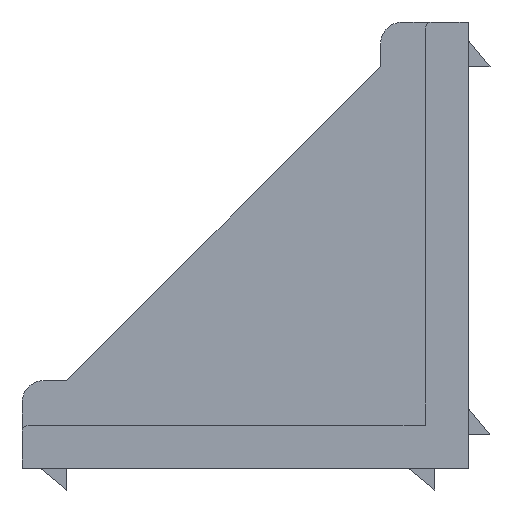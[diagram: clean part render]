
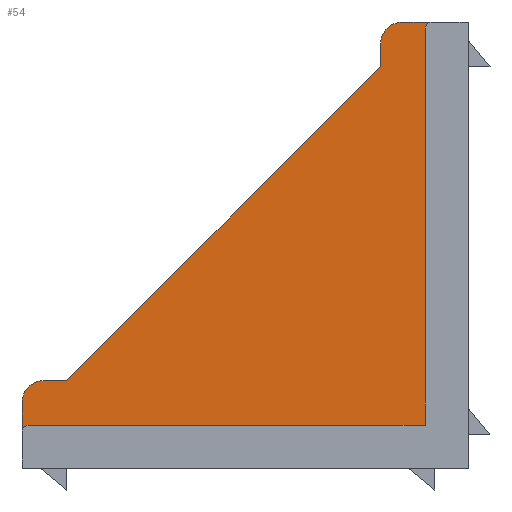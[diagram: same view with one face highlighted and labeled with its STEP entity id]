
A CAD part, left-side view. The second image highlights one B-rep face of the part: STEP entity #54.
In plain terms, the highlighted planar face has unit normal (-1, 0, 0).
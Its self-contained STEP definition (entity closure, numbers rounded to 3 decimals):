
#32 = VECTOR ( 'NONE', #1041, 1000. ) ;
#37 = LINE ( 'NONE', #942, #491 ) ;
#40 = EDGE_LOOP ( 'NONE', ( #1747, #134, #2377, #1853, #1236, #412, #1715, #919, #1050, #2366, #1229 ) ) ;
#54 = ADVANCED_FACE ( 'NONE', ( #619 ), #365, .F. ) ;
#110 = CARTESIAN_POINT ( 'NONE',  ( 12., 4.8, 60. ) ) ;
#134 = ORIENTED_EDGE ( 'NONE', *, *, #460, .T. ) ;
#148 = CARTESIAN_POINT ( 'NONE',  ( 12., 0., 0. ) ) ;
#244 = CARTESIAN_POINT ( 'NONE',  ( 12., 60., 8.8 ) ) ;
#258 = VERTEX_POINT ( 'NONE', #244 ) ;
#269 = CARTESIAN_POINT ( 'NONE',  ( 12., 59., 4.8 ) ) ;
#299 = VECTOR ( 'NONE', #601, 1000. ) ;
#302 = CIRCLE ( 'NONE', #1789, 3. ) ;
#307 = CIRCLE ( 'NONE', #1857, 1. ) ;
#311 = VECTOR ( 'NONE', #1060, 1000. ) ;
#355 = LINE ( 'NONE', #2393, #311 ) ;
#365 = PLANE ( 'NONE',  #2020 ) ;
#391 = VERTEX_POINT ( 'NONE', #594 ) ;
#396 = EDGE_CURVE ( 'NONE', #964, #1491, #860, .T. ) ;
#412 = ORIENTED_EDGE ( 'NONE', *, *, #1267, .T. ) ;
#413 = CARTESIAN_POINT ( 'NONE',  ( 12., 5.8, 5.8 ) ) ;
#417 = LINE ( 'NONE', #1521, #1921 ) ;
#443 = CARTESIAN_POINT ( 'NONE',  ( 12., 57., 8.8 ) ) ;
#460 = EDGE_CURVE ( 'NONE', #540, #1029, #2108, .T. ) ;
#463 = DIRECTION ( 'NONE',  ( 0., 0., -1. ) ) ;
#467 = DIRECTION ( 'NONE',  ( 1., 0., 0. ) ) ;
#491 = VECTOR ( 'NONE', #573, 1000. ) ;
#540 = VERTEX_POINT ( 'NONE', #773 ) ;
#573 = DIRECTION ( 'NONE',  ( 0., 0., 1. ) ) ;
#594 = CARTESIAN_POINT ( 'NONE',  ( 12., 54., 11.8 ) ) ;
#601 = DIRECTION ( 'NONE',  ( 0., 0., -1. ) ) ;
#603 = DIRECTION ( 'NONE',  ( 0., -1., 0. ) ) ;
#619 = FACE_OUTER_BOUND ( 'NONE', #40, .T. ) ;
#634 = DIRECTION ( 'NONE',  ( 0., 0., -1. ) ) ;
#639 = CARTESIAN_POINT ( 'NONE',  ( 12., 60., 4.8 ) ) ;
#740 = EDGE_CURVE ( 'NONE', #1491, #1063, #417, .T. ) ;
#773 = CARTESIAN_POINT ( 'NONE',  ( 12., 8.8, 60. ) ) ;
#775 = EDGE_CURVE ( 'NONE', #1975, #1029, #873, .T. ) ;
#796 = VECTOR ( 'NONE', #1574, 1000. ) ;
#836 = CARTESIAN_POINT ( 'NONE',  ( 12., 8.8, 57. ) ) ;
#856 = CARTESIAN_POINT ( 'NONE',  ( 12., 60., 11.8 ) ) ;
#860 = LINE ( 'NONE', #2103, #299 ) ;
#873 = LINE ( 'NONE', #1399, #796 ) ;
#919 = ORIENTED_EDGE ( 'NONE', *, *, #1822, .T. ) ;
#942 = CARTESIAN_POINT ( 'NONE',  ( 12., 60., 5.8 ) ) ;
#949 = EDGE_CURVE ( 'NONE', #1825, #258, #37, .T. ) ;
#964 = VERTEX_POINT ( 'NONE', #1692 ) ;
#1026 = DIRECTION ( 'NONE',  ( 0., 0., -1. ) ) ;
#1029 = VERTEX_POINT ( 'NONE', #2190 ) ;
#1041 = DIRECTION ( 'NONE',  ( 0., -1., 0. ) ) ;
#1050 = ORIENTED_EDGE ( 'NONE', *, *, #740, .F. ) ;
#1051 = EDGE_CURVE ( 'NONE', #391, #1975, #355, .T. ) ;
#1060 = DIRECTION ( 'NONE',  ( 0., -0.707, 0.707 ) ) ;
#1063 = VERTEX_POINT ( 'NONE', #1821 ) ;
#1145 = AXIS2_PLACEMENT_3D ( 'NONE', #836, #2156, #1026 ) ;
#1192 = CARTESIAN_POINT ( 'NONE',  ( 12., 57., 11.8 ) ) ;
#1220 = EDGE_CURVE ( 'NONE', #540, #1735, #1859, .T. ) ;
#1229 = ORIENTED_EDGE ( 'NONE', *, *, #1655, .T. ) ;
#1236 = ORIENTED_EDGE ( 'NONE', *, *, #1703, .F. ) ;
#1267 = EDGE_CURVE ( 'NONE', #2098, #258, #302, .T. ) ;
#1297 = VECTOR ( 'NONE', #603, 1000. ) ;
#1399 = CARTESIAN_POINT ( 'NONE',  ( 12., 11.8, 54. ) ) ;
#1491 = VERTEX_POINT ( 'NONE', #413 ) ;
#1521 = CARTESIAN_POINT ( 'NONE',  ( 12., 5.8, 5.8 ) ) ;
#1574 = DIRECTION ( 'NONE',  ( 0., 0., 1. ) ) ;
#1579 = DIRECTION ( 'NONE',  ( 1., 0., 0. ) ) ;
#1583 = CARTESIAN_POINT ( 'NONE',  ( 12., 4.8, 59. ) ) ;
#1655 = EDGE_CURVE ( 'NONE', #964, #1735, #2163, .T. ) ;
#1692 = CARTESIAN_POINT ( 'NONE',  ( 12., 5.8, 59. ) ) ;
#1703 = EDGE_CURVE ( 'NONE', #2098, #391, #2034, .T. ) ;
#1715 = ORIENTED_EDGE ( 'NONE', *, *, #949, .F. ) ;
#1735 = VERTEX_POINT ( 'NONE', #110 ) ;
#1747 = ORIENTED_EDGE ( 'NONE', *, *, #1220, .F. ) ;
#1755 = DIRECTION ( 'NONE',  ( -1., 0., 0. ) ) ;
#1784 = DIRECTION ( 'NONE',  ( 0., 0., -1. ) ) ;
#1789 = AXIS2_PLACEMENT_3D ( 'NONE', #443, #1755, #634 ) ;
#1821 = CARTESIAN_POINT ( 'NONE',  ( 12., 59., 5.8 ) ) ;
#1822 = EDGE_CURVE ( 'NONE', #1825, #1063, #307, .T. ) ;
#1825 = VERTEX_POINT ( 'NONE', #639 ) ;
#1853 = ORIENTED_EDGE ( 'NONE', *, *, #1051, .F. ) ;
#1857 = AXIS2_PLACEMENT_3D ( 'NONE', #269, #1579, #463 ) ;
#1859 = LINE ( 'NONE', #1927, #1297 ) ;
#1921 = VECTOR ( 'NONE', #1951, 1000. ) ;
#1927 = CARTESIAN_POINT ( 'NONE',  ( 12., 11.8, 60. ) ) ;
#1951 = DIRECTION ( 'NONE',  ( 0., 1., 0. ) ) ;
#1975 = VERTEX_POINT ( 'NONE', #2087 ) ;
#2020 = AXIS2_PLACEMENT_3D ( 'NONE', #148, #2427, #2413 ) ;
#2034 = LINE ( 'NONE', #856, #32 ) ;
#2087 = CARTESIAN_POINT ( 'NONE',  ( 12., 11.8, 54. ) ) ;
#2098 = VERTEX_POINT ( 'NONE', #1192 ) ;
#2103 = CARTESIAN_POINT ( 'NONE',  ( 12., 5.8, 60. ) ) ;
#2108 = CIRCLE ( 'NONE', #1145, 3. ) ;
#2156 = DIRECTION ( 'NONE',  ( -1., 0., 0. ) ) ;
#2163 = CIRCLE ( 'NONE', #2279, 1. ) ;
#2190 = CARTESIAN_POINT ( 'NONE',  ( 12., 11.8, 57. ) ) ;
#2279 = AXIS2_PLACEMENT_3D ( 'NONE', #1583, #467, #1784 ) ;
#2366 = ORIENTED_EDGE ( 'NONE', *, *, #396, .F. ) ;
#2377 = ORIENTED_EDGE ( 'NONE', *, *, #775, .F. ) ;
#2393 = CARTESIAN_POINT ( 'NONE',  ( 12., 54., 11.8 ) ) ;
#2413 = DIRECTION ( 'NONE',  ( 0., 0., -1. ) ) ;
#2427 = DIRECTION ( 'NONE',  ( 1., 0., 0. ) ) ;
